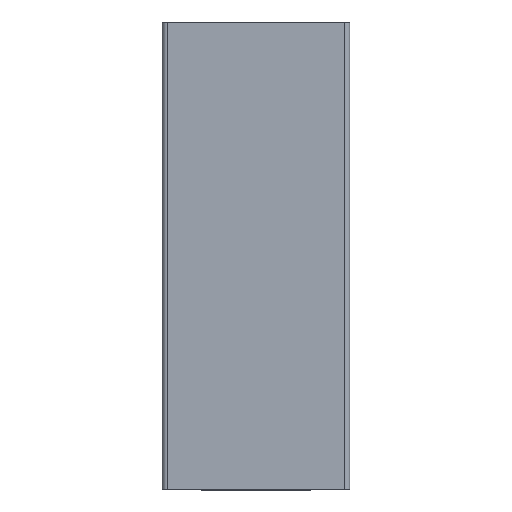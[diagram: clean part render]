
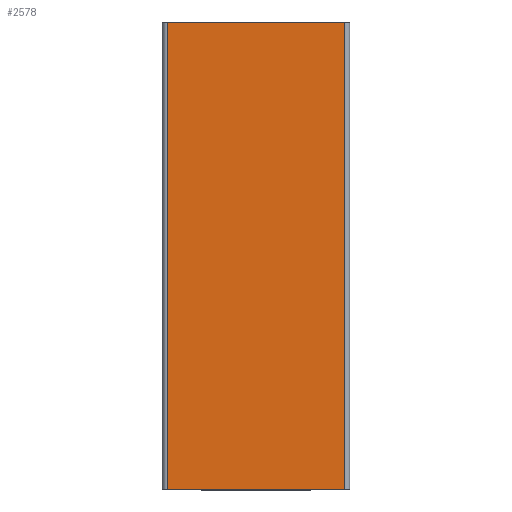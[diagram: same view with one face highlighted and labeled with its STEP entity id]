
A CAD part, left-side view. The second image highlights one B-rep face of the part: STEP entity #2578.
In plain terms, the highlighted planar face has unit normal (-1, 0, 0).
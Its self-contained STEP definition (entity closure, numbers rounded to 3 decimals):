
#335=CARTESIAN_POINT('',(-20.,-19.,100.0));
#336=VERTEX_POINT('',#335);
#337=CARTESIAN_POINT('',(-20.,19.,100.0));
#338=VERTEX_POINT('',#337);
#339=CARTESIAN_POINT('',(-20.,-19.,100.0));
#340=DIRECTION('',(0.0,1.0,0.0));
#341=VECTOR('',#340,38.);
#342=LINE('',#339,#341);
#343=EDGE_CURVE('',#336,#338,#342,.T.);
#1436=CARTESIAN_POINT('',(-20.,19.,0.0));
#1437=VERTEX_POINT('',#1436);
#1445=CARTESIAN_POINT('',(-20.,19.,0.0));
#1446=DIRECTION('',(0.0,0.0,1.0));
#1447=VECTOR('',#1446,100.0);
#1448=LINE('',#1445,#1447);
#1449=EDGE_CURVE('',#1437,#338,#1448,.T.);
#1459=CARTESIAN_POINT('',(-20.,-19.,0.0));
#1460=VERTEX_POINT('',#1459);
#1461=CARTESIAN_POINT('',(-20.,19.0,0.0));
#1462=DIRECTION('',(0.0,-1.0,0.0));
#1463=VECTOR('',#1462,38.);
#1464=LINE('',#1461,#1463);
#1465=EDGE_CURVE('',#1437,#1460,#1464,.T.);
#2551=CARTESIAN_POINT('',(-20.,-19.,100.0));
#2552=DIRECTION('',(0.0,0.0,-1.0));
#2553=VECTOR('',#2552,100.0);
#2554=LINE('',#2551,#2553);
#2555=EDGE_CURVE('',#336,#1460,#2554,.T.);
#2567=CARTESIAN_POINT('',(-20.,-20.,0.0));
#2568=DIRECTION('',(-1.0,0.0,0.0));
#2569=DIRECTION('',(0.0,0.0,1.0));
#2570=AXIS2_PLACEMENT_3D('',#2567,#2568,#2569);
#2571=PLANE('',#2570);
#2572=ORIENTED_EDGE('',*,*,#2555,.F.);
#2573=ORIENTED_EDGE('',*,*,#343,.T.);
#2574=ORIENTED_EDGE('',*,*,#1449,.F.);
#2575=ORIENTED_EDGE('',*,*,#1465,.T.);
#2576=EDGE_LOOP('',(#2572,#2573,#2574,#2575));
#2577=FACE_OUTER_BOUND('',#2576,.T.);
#2578=ADVANCED_FACE('',(#2577),#2571,.T.);
